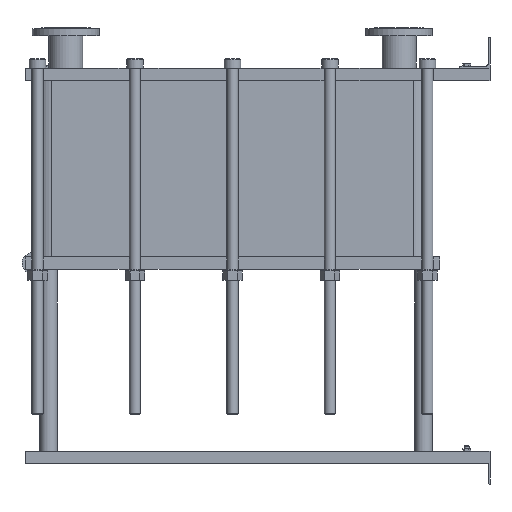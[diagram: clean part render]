
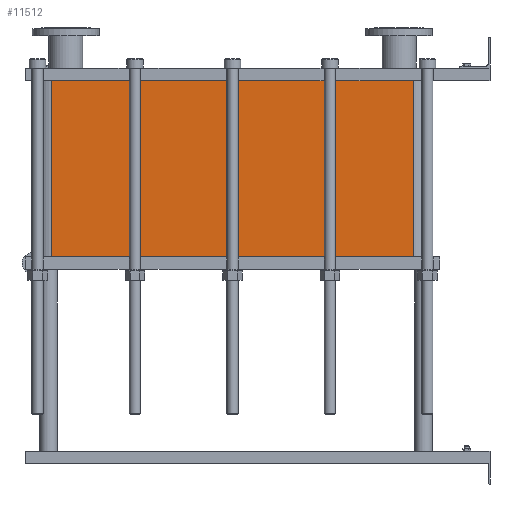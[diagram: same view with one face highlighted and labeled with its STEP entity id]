
A CAD part, left-side view. The second image highlights one B-rep face of the part: STEP entity #11512.
In plain terms, the highlighted planar face has unit normal (-1, 0, 0).
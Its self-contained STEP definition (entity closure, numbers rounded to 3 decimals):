
#1129=LINE('',#23232,#2102);
#1130=LINE('',#23236,#2103);
#1131=LINE('',#23238,#2104);
#1132=LINE('',#23239,#2105);
#2102=VECTOR('',#15887,10.);
#2103=VECTOR('',#15892,10.);
#2104=VECTOR('',#15893,10.);
#2105=VECTOR('',#15894,10.);
#3267=FACE_OUTER_BOUND('',#4093,.T.);
#4093=EDGE_LOOP('',(#10103,#10104,#10105,#10106));
#5642=VERTEX_POINT('',#23229);
#5643=VERTEX_POINT('',#23231);
#5644=VERTEX_POINT('',#23235);
#5645=VERTEX_POINT('',#23237);
#7159=EDGE_CURVE('',#5643,#5642,#1129,.T.);
#7161=EDGE_CURVE('',#5642,#5644,#1130,.T.);
#7162=EDGE_CURVE('',#5645,#5644,#1131,.T.);
#7163=EDGE_CURVE('',#5645,#5643,#1132,.T.);
#10103=ORIENTED_EDGE('',*,*,#7161,.T.);
#10104=ORIENTED_EDGE('',*,*,#7162,.F.);
#10105=ORIENTED_EDGE('',*,*,#7163,.T.);
#10106=ORIENTED_EDGE('',*,*,#7159,.T.);
#10857=PLANE('',#12751);
#11512=ADVANCED_FACE('',(#3267),#10857,.T.);
#12751=AXIS2_PLACEMENT_3D('',#23234,#15890,#15891);
#15887=DIRECTION('',(0.,0.,-1.));
#15890=DIRECTION('center_axis',(-1.,0.,0.));
#15891=DIRECTION('ref_axis',(0.,1.,0.));
#15892=DIRECTION('',(0.,-1.,0.));
#15893=DIRECTION('',(0.,0.,-1.));
#15894=DIRECTION('',(0.,1.,0.));
#23229=CARTESIAN_POINT('',(-200.,1414.,-569.25));
#23231=CARTESIAN_POINT('',(-200.,1414.,0.));
#23232=CARTESIAN_POINT('',(-200.,1414.,0.));
#23234=CARTESIAN_POINT('Origin',(-200.,248.,0.));
#23235=CARTESIAN_POINT('',(-200.,248.,-569.25));
#23236=CARTESIAN_POINT('',(-200.,539.5,-569.25));
#23237=CARTESIAN_POINT('',(-200.,248.,0.));
#23238=CARTESIAN_POINT('',(-200.,248.,0.));
#23239=CARTESIAN_POINT('',(-200.,248.,0.));
